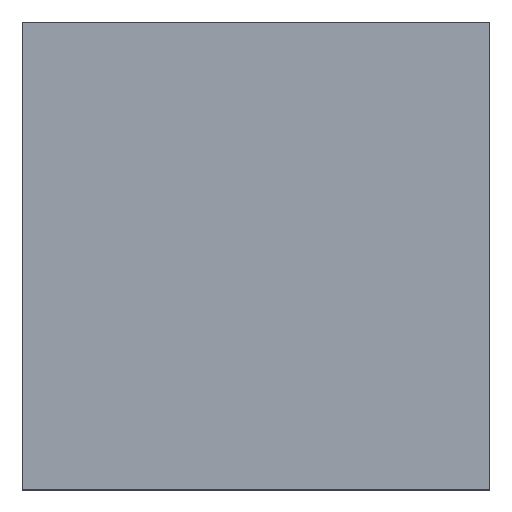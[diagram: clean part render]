
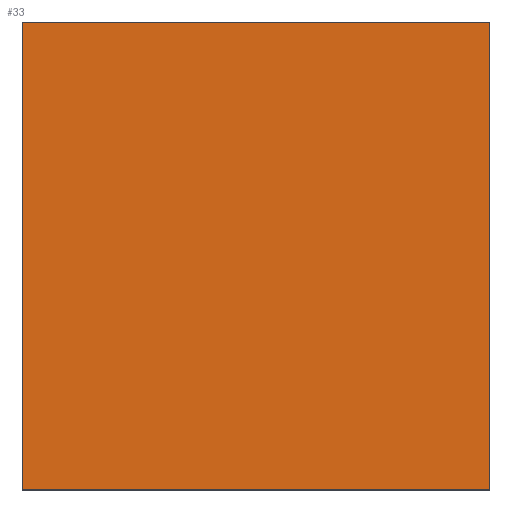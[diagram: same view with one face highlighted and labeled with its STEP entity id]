
A CAD part, top view. The second image highlights one B-rep face of the part: STEP entity #33.
In plain terms, the highlighted planar face has unit normal (0, 0, 1).
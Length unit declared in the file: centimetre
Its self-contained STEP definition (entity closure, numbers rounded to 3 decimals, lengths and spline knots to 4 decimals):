
#23 = CARTESIAN_POINT ( 'NONE',  ( 0., 1000., 1000. ) ) ;
#25 = VERTEX_POINT ( 'NONE', #502 ) ;
#33 = ADVANCED_FACE ( 'NONE', ( #163 ), #435, .T. ) ;
#72 = ORIENTED_EDGE ( 'NONE', *, *, #273, .T. ) ;
#92 = VECTOR ( 'NONE', #649, 100. ) ;
#163 = FACE_OUTER_BOUND ( 'NONE', #552, .T. ) ;
#176 = CARTESIAN_POINT ( 'NONE',  ( 0., 1000., 1000. ) ) ;
#212 = VERTEX_POINT ( 'NONE', #341 ) ;
#229 = LINE ( 'NONE', #505, #818 ) ;
#273 = EDGE_CURVE ( 'NONE', #212, #578, #839, .T. ) ;
#298 = DIRECTION ( 'NONE',  ( 0., -1., 0. ) ) ;
#322 = CARTESIAN_POINT ( 'NONE',  ( 0., 0., 1000. ) ) ;
#329 = EDGE_CURVE ( 'NONE', #25, #743, #437, .T. ) ;
#341 = CARTESIAN_POINT ( 'NONE',  ( 0., 1000., 1000. ) ) ;
#353 = EDGE_CURVE ( 'NONE', #743, #212, #432, .T. ) ;
#390 = DIRECTION ( 'NONE',  ( 0., 0., 1. ) ) ;
#412 = EDGE_CURVE ( 'NONE', #578, #25, #229, .T. ) ;
#432 = LINE ( 'NONE', #176, #92 ) ;
#435 = PLANE ( 'NONE',  #644 ) ;
#437 = LINE ( 'NONE', #520, #727 ) ;
#502 = CARTESIAN_POINT ( 'NONE',  ( 1000., 0., 1000. ) ) ;
#505 = CARTESIAN_POINT ( 'NONE',  ( 0., 0., 1000. ) ) ;
#520 = CARTESIAN_POINT ( 'NONE',  ( 1000., 1000., 1000. ) ) ;
#533 = DIRECTION ( 'NONE',  ( 1., 0., 0. ) ) ;
#552 = EDGE_LOOP ( 'NONE', ( #72, #710, #556, #756 ) ) ;
#556 = ORIENTED_EDGE ( 'NONE', *, *, #329, .T. ) ;
#578 = VERTEX_POINT ( 'NONE', #593 ) ;
#593 = CARTESIAN_POINT ( 'NONE',  ( 0., 0., 1000. ) ) ;
#644 = AXIS2_PLACEMENT_3D ( 'NONE', #322, #390, #533 ) ;
#649 = DIRECTION ( 'NONE',  ( -1., 0., 0. ) ) ;
#696 = DIRECTION ( 'NONE',  ( 1., 0., 0. ) ) ;
#700 = CARTESIAN_POINT ( 'NONE',  ( 1000., 1000., 1000. ) ) ;
#710 = ORIENTED_EDGE ( 'NONE', *, *, #412, .T. ) ;
#727 = VECTOR ( 'NONE', #759, 100. ) ;
#743 = VERTEX_POINT ( 'NONE', #700 ) ;
#756 = ORIENTED_EDGE ( 'NONE', *, *, #353, .T. ) ;
#759 = DIRECTION ( 'NONE',  ( 0., 1., 0. ) ) ;
#818 = VECTOR ( 'NONE', #696, 100. ) ;
#839 = LINE ( 'NONE', #23, #868 ) ;
#868 = VECTOR ( 'NONE', #298, 100. ) ;
